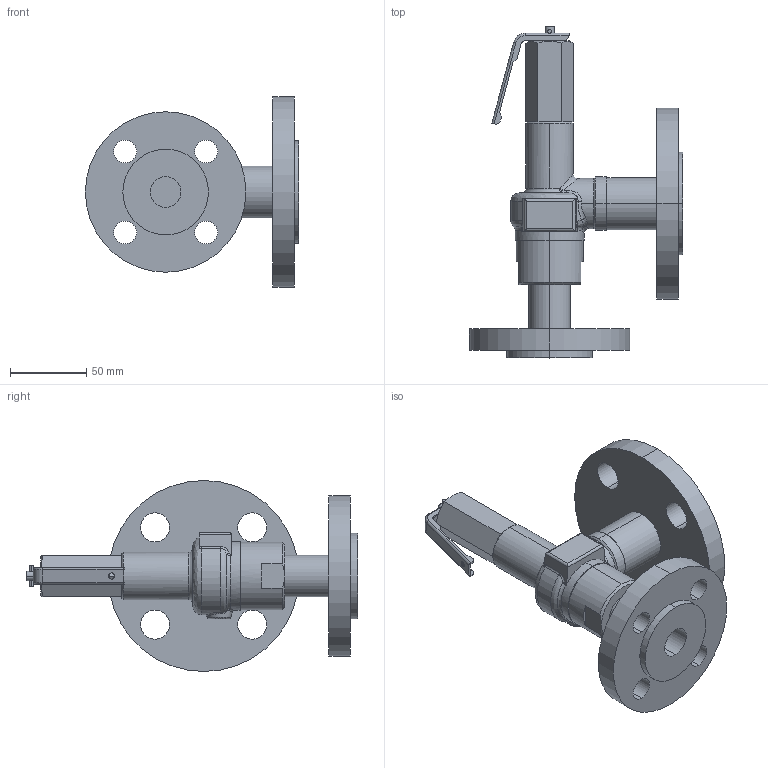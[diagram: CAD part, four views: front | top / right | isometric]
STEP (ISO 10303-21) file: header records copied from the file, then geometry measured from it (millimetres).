
FILE_DESCRIPTION( (''), '2;1');
FILE_NAME ('PC1276.14284.AL-32ML 20A_31800.stp','2025-12-05T09:07:17',(''),(''),'spGate 20.6.3 (****-****-****-****)','','');
FILE_SCHEMA (('AUTOMOTIVE_DESIGN'));
Length unit declared in the file: millimetre
Products named in the file (3): Assembly; AL-12 Lever; AL-32ML 20A(non-lever)-3D
Assembly tree (2 placements, depth 2):
  Assembly
    AL-12 Lever
    AL-32ML 20A(non-lever)-3D
Bounding box: 139.5 x 217.25 x 125 mm (x, y, z)
Volume: 490595.1 mm3; surface area: 92101.9 mm2
Topology: 2 solids, 2 shells, 198 faces, 485 edges, 303 vertices
Faces by surface type: cylinder 81, plane 63, bspline 50, sphere 4
Entity records: 11669 total; most frequent: CARTESIAN_POINT 3340, ORIENTED_EDGE 970, DIRECTION 862, COLOUR_RGB 685, PRESENTATION_STYLE_ASSIGNMENT 685, STYLED_ITEM 685, EDGE_CURVE 485, DRAUGHTING_PRE_DEFINED_CURVE_FONT 485
